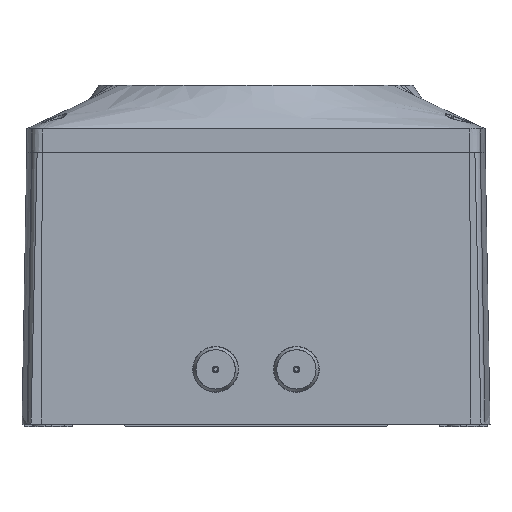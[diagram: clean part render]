
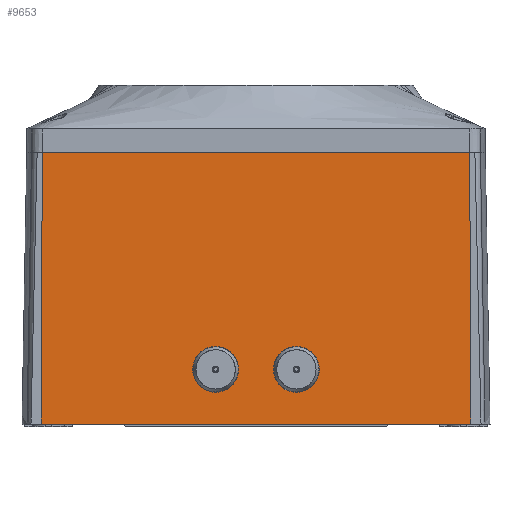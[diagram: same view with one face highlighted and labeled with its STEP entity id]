
A CAD part, top view. The second image highlights one B-rep face of the part: STEP entity #9653.
In plain terms, the highlighted planar face has unit normal (0, 0, 1).
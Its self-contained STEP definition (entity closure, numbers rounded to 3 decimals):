
#2964 = CARTESIAN_POINT ( 'NONE',  ( -97.871, 44., 85. ) ) ;
#3051 = DIRECTION ( 'NONE',  ( 1., 0., 0. ) ) ;
#3052 = VECTOR ( 'NONE', #3051, 1000. ) ;
#3053 = LINE ( 'NONE', #2964, #3052 ) ;
#3054 = CARTESIAN_POINT ( 'NONE',  ( -97.871, 44., 85. ) ) ;
#3109 = CARTESIAN_POINT ( 'NONE',  ( -98.413, -80.2, 85. ) ) ;
#3137 = AXIS2_PLACEMENT_3D ( 'NONE', #3288, #3178, #3261 ) ;
#3159 = CIRCLE ( 'NONE', #3137, 10.5 ) ;
#3169 = CARTESIAN_POINT ( 'NONE',  ( 97.871, 44., 85. ) ) ;
#3177 = CARTESIAN_POINT ( 'NONE',  ( 98.413, -80.2, 85. ) ) ;
#3178 = DIRECTION ( 'NONE',  ( 0., 0., 1. ) ) ;
#3196 = CARTESIAN_POINT ( 'NONE',  ( -99.592, -350.378, 85. ) ) ;
#3198 = CARTESIAN_POINT ( 'NONE',  ( -97.871, -80.2, 85. ) ) ;
#3228 = DIRECTION ( 'NONE',  ( -1., 0., 0. ) ) ;
#3229 = VECTOR ( 'NONE', #3228, 1000. ) ;
#3231 = DIRECTION ( 'NONE',  ( -0.004, -1., 0. ) ) ;
#3232 = VECTOR ( 'NONE', #3231, 1000. ) ;
#3233 = LINE ( 'NONE', #3196, #3232 ) ;
#3237 = LINE ( 'NONE', #3198, #3229 ) ;
#3261 = DIRECTION ( 'NONE',  ( 1., 0., 0. ) ) ;
#3288 = CARTESIAN_POINT ( 'NONE',  ( 18.5, -55.2, 85. ) ) ;
#3392 = DIRECTION ( 'NONE',  ( 1., 0., 0. ) ) ;
#3393 = DIRECTION ( 'NONE',  ( 0., 0., 1. ) ) ;
#3394 = CARTESIAN_POINT ( 'NONE',  ( -18.5, -55.2, 85. ) ) ;
#3395 = AXIS2_PLACEMENT_3D ( 'NONE', #3394, #3393, #3392 ) ;
#3398 = CIRCLE ( 'NONE', #3395, 10.5 ) ;
#3452 = FACE_OUTER_BOUND ( 'NONE', #9709, .T. ) ;
#3461 = FACE_BOUND ( 'NONE', #9654, .T. ) ;
#3484 = DIRECTION ( 'NONE',  ( 1., 0., 0. ) ) ;
#3485 = DIRECTION ( 'NONE',  ( 0., 0., 1. ) ) ;
#3486 = CARTESIAN_POINT ( 'NONE',  ( -97.871, -350.385, 85. ) ) ;
#3501 = FACE_BOUND ( 'NONE', #9613, .T. ) ;
#3524 = AXIS2_PLACEMENT_3D ( 'NONE', #3486, #3485, #3484 ) ;
#3525 = PLANE ( 'NONE',  #3524 ) ;
#3587 = VECTOR ( 'NONE', #3633, 1000. ) ;
#3588 = CARTESIAN_POINT ( 'NONE',  ( 99.588, -349.524, 85. ) ) ;
#3589 = LINE ( 'NONE', #3588, #3587 ) ;
#3633 = DIRECTION ( 'NONE',  ( -0.004, 1., 0. ) ) ;
#7579 = CARTESIAN_POINT ( 'NONE',  ( -8., -55.2, 85. ) ) ;
#7582 = VERTEX_POINT ( 'NONE', #7579 ) ;
#7584 = VERTEX_POINT ( 'NONE', #7759 ) ;
#7759 = CARTESIAN_POINT ( 'NONE',  ( 29., -55.2, 85. ) ) ;
#9494 = ORIENTED_EDGE ( 'NONE', *, *, #9614, .F. ) ;
#9495 = ORIENTED_EDGE ( 'NONE', *, *, #9551, .T. ) ;
#9497 = VERTEX_POINT ( 'NONE', #3109 ) ;
#9511 = ORIENTED_EDGE ( 'NONE', *, *, #9513, .F. ) ;
#9513 = EDGE_CURVE ( 'NONE', #9514, #9598, #3053, .T. ) ;
#9514 = VERTEX_POINT ( 'NONE', #3054 ) ;
#9526 = ORIENTED_EDGE ( 'NONE', *, *, #9680, .T. ) ;
#9551 = EDGE_CURVE ( 'NONE', #9514, #9497, #3233, .T. ) ;
#9554 = EDGE_CURVE ( 'NONE', #9597, #9497, #3237, .T. ) ;
#9597 = VERTEX_POINT ( 'NONE', #3177 ) ;
#9598 = VERTEX_POINT ( 'NONE', #3169 ) ;
#9604 = EDGE_CURVE ( 'NONE', #7584, #7584, #3159, .T. ) ;
#9613 = EDGE_LOOP ( 'NONE', ( #9647 ) ) ;
#9614 = EDGE_CURVE ( 'NONE', #7582, #7582, #3398, .T. ) ;
#9647 = ORIENTED_EDGE ( 'NONE', *, *, #9604, .F. ) ;
#9653 = ADVANCED_FACE ( 'NONE', ( #3501, #3461, #3452 ), #3525, .T. ) ;
#9654 = EDGE_LOOP ( 'NONE', ( #9494 ) ) ;
#9680 = EDGE_CURVE ( 'NONE', #9597, #9598, #3589, .T. ) ;
#9707 = ORIENTED_EDGE ( 'NONE', *, *, #9554, .F. ) ;
#9709 = EDGE_LOOP ( 'NONE', ( #9511, #9495, #9707, #9526 ) ) ;
